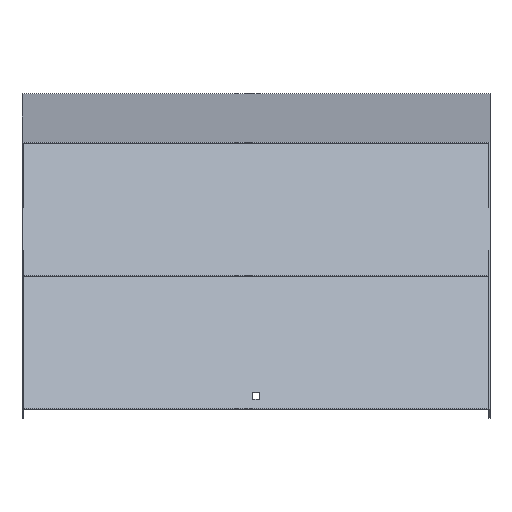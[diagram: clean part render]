
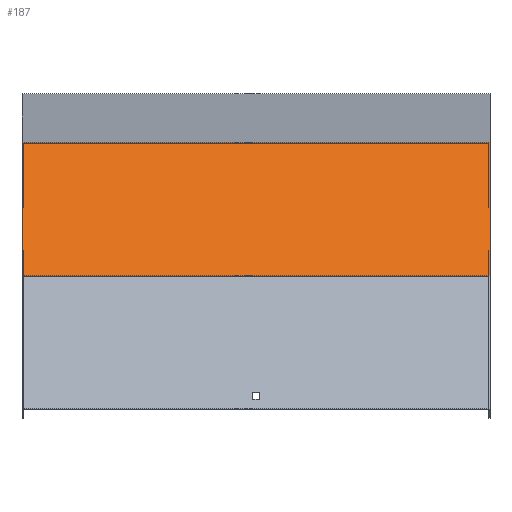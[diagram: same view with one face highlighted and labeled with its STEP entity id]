
A CAD part, top view. The second image highlights one B-rep face of the part: STEP entity #187.
In plain terms, the highlighted planar face has unit normal (0, 0.707, 0.707).
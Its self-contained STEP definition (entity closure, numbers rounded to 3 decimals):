
#39 = DIRECTION ( 'NONE',  ( -1., 0., 0. ) ) ;
#77 = CARTESIAN_POINT ( 'NONE',  ( -251.5, -32.538, 361.708 ) ) ;
#88 = LINE ( 'NONE', #679, #257 ) ;
#100 = DIRECTION ( 'NONE',  ( -1., 0., 0. ) ) ;
#106 = CARTESIAN_POINT ( 'NONE',  ( 251.5, -176.075, 505.245 ) ) ;
#117 = EDGE_CURVE ( 'NONE', #333, #306, #393, .T. ) ;
#118 = ORIENTED_EDGE ( 'NONE', *, *, #117, .T. ) ;
#141 = AXIS2_PLACEMENT_3D ( 'NONE', #891, #199, #213 ) ;
#153 = DIRECTION ( 'NONE',  ( 0., -0.707, 0.707 ) ) ;
#187 = ADVANCED_FACE ( 'NONE', ( #657 ), #590, .F. ) ;
#199 = DIRECTION ( 'NONE',  ( 0., -0.707, -0.707 ) ) ;
#204 = VERTEX_POINT ( 'NONE', #666 ) ;
#207 = CARTESIAN_POINT ( 'NONE',  ( 251.5, -176.075, 505.245 ) ) ;
#213 = DIRECTION ( 'NONE',  ( 0., 0.707, -0.707 ) ) ;
#225 = CARTESIAN_POINT ( 'NONE',  ( 251.5, -36.328, 365.498 ) ) ;
#238 = VERTEX_POINT ( 'NONE', #207 ) ;
#257 = VECTOR ( 'NONE', #153, 1000. ) ;
#279 = EDGE_CURVE ( 'NONE', #333, #238, #752, .T. ) ;
#306 = VERTEX_POINT ( 'NONE', #77 ) ;
#315 = CARTESIAN_POINT ( 'NONE',  ( 251.5, -32.538, 361.708 ) ) ;
#321 = DIRECTION ( 'NONE',  ( 0., -0.707, 0.707 ) ) ;
#333 = VERTEX_POINT ( 'NONE', #850 ) ;
#350 = VECTOR ( 'NONE', #100, 1000. ) ;
#393 = LINE ( 'NONE', #315, #350 ) ;
#510 = EDGE_LOOP ( 'NONE', ( #924, #763, #667, #118 ) ) ;
#524 = VECTOR ( 'NONE', #321, 1000. ) ;
#590 = PLANE ( 'NONE',  #141 ) ;
#657 = FACE_OUTER_BOUND ( 'NONE', #510, .T. ) ;
#666 = CARTESIAN_POINT ( 'NONE',  ( -251.5, -176.075, 505.245 ) ) ;
#667 = ORIENTED_EDGE ( 'NONE', *, *, #279, .F. ) ;
#679 = CARTESIAN_POINT ( 'NONE',  ( -251.5, -36.328, 365.498 ) ) ;
#714 = LINE ( 'NONE', #106, #895 ) ;
#752 = LINE ( 'NONE', #225, #524 ) ;
#763 = ORIENTED_EDGE ( 'NONE', *, *, #809, .F. ) ;
#809 = EDGE_CURVE ( 'NONE', #238, #204, #714, .T. ) ;
#850 = CARTESIAN_POINT ( 'NONE',  ( 251.5, -32.538, 361.708 ) ) ;
#891 = CARTESIAN_POINT ( 'NONE',  ( 251.5, -36.328, 365.498 ) ) ;
#895 = VECTOR ( 'NONE', #39, 1000. ) ;
#924 = ORIENTED_EDGE ( 'NONE', *, *, #958, .T. ) ;
#958 = EDGE_CURVE ( 'NONE', #306, #204, #88, .T. ) ;
